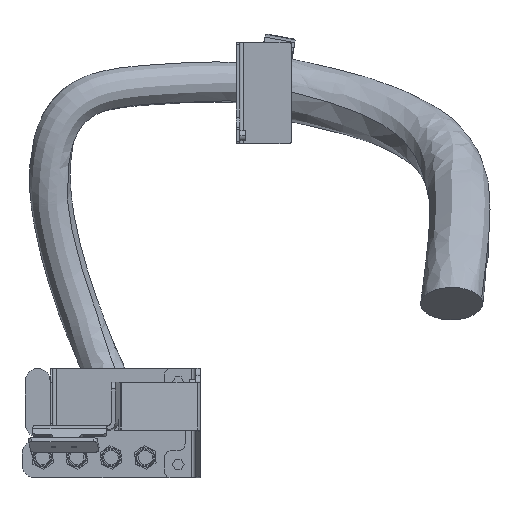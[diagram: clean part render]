
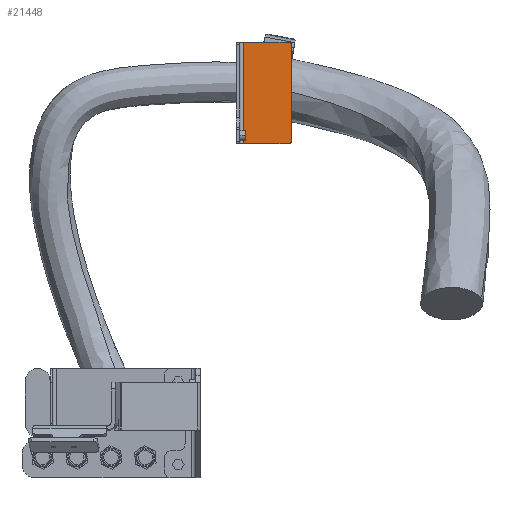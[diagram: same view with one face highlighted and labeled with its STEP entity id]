
A CAD part, left-side view. The second image highlights one B-rep face of the part: STEP entity #21448.
In plain terms, the highlighted planar face has unit normal (-1, 0, 0).
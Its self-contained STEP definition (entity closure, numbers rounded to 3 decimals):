
#708 = CARTESIAN_POINT ( 'NONE',  ( 515., -127., 2004. ) ) ;
#1198 = AXIS2_PLACEMENT_3D ( 'NONE', #8930, #24842, #6983 ) ;
#1889 = DIRECTION ( 'NONE',  ( 0., -1., 0. ) ) ;
#2055 = CARTESIAN_POINT ( 'NONE',  ( 515., -202., 2004. ) ) ;
#2662 = ORIENTED_EDGE ( 'NONE', *, *, #15573, .T. ) ;
#2813 = VECTOR ( 'NONE', #1889, 1000. ) ;
#2840 = CARTESIAN_POINT ( 'NONE',  ( 515., -127., 2004. ) ) ;
#2876 = EDGE_CURVE ( 'NONE', #12617, #16021, #13409, .T. ) ;
#3079 = FACE_OUTER_BOUND ( 'NONE', #5460, .T. ) ;
#3271 = CARTESIAN_POINT ( 'NONE',  ( 515., -202., 2001. ) ) ;
#3597 = CARTESIAN_POINT ( 'NONE',  ( 515., -127., 1856. ) ) ;
#4003 = EDGE_CURVE ( 'NONE', #24492, #12617, #19876, .T. ) ;
#4403 = CARTESIAN_POINT ( 'NONE',  ( 515., -132., 2004. ) ) ;
#4695 = CARTESIAN_POINT ( 'NONE',  ( 515., -199., 2004. ) ) ;
#4953 = DIRECTION ( 'NONE',  ( -1., 0., 0. ) ) ;
#5460 = EDGE_LOOP ( 'NONE', ( #15239, #16439, #23934, #20382, #2662, #24780 ) ) ;
#5525 = LINE ( 'NONE', #3597, #2813 ) ;
#6585 = DIRECTION ( 'NONE',  ( 1., 0., 0. ) ) ;
#6909 = CARTESIAN_POINT ( 'NONE',  ( 515., -199., 2001. ) ) ;
#6983 = DIRECTION ( 'NONE',  ( 0., 1., 0. ) ) ;
#7877 = CARTESIAN_POINT ( 'NONE',  ( 515., -199., 1856. ) ) ;
#8013 = VECTOR ( 'NONE', #15482, 1000. ) ;
#8386 = AXIS2_PLACEMENT_3D ( 'NONE', #708, #6585, #12605 ) ;
#8476 = VERTEX_POINT ( 'NONE', #4403 ) ;
#8862 = DIRECTION ( 'NONE',  ( 0., 1., 0. ) ) ;
#8930 = CARTESIAN_POINT ( 'NONE',  ( 515., -199., 1859. ) ) ;
#9103 = CIRCLE ( 'NONE', #1198, 3. ) ;
#12605 = DIRECTION ( 'NONE',  ( 0., 1., 0. ) ) ;
#12617 = VERTEX_POINT ( 'NONE', #3271 ) ;
#13409 = CIRCLE ( 'NONE', #18955, 3. ) ;
#13980 = VECTOR ( 'NONE', #21967, 1000. ) ;
#14727 = VERTEX_POINT ( 'NONE', #7877 ) ;
#15239 = ORIENTED_EDGE ( 'NONE', *, *, #4003, .T. ) ;
#15482 = DIRECTION ( 'NONE',  ( 0., 0., 1. ) ) ;
#15573 = EDGE_CURVE ( 'NONE', #23222, #14727, #5525, .T. ) ;
#15871 = CARTESIAN_POINT ( 'NONE',  ( 515., -132., 1856. ) ) ;
#16021 = VERTEX_POINT ( 'NONE', #4695 ) ;
#16439 = ORIENTED_EDGE ( 'NONE', *, *, #2876, .T. ) ;
#17624 = EDGE_CURVE ( 'NONE', #14727, #24492, #9103, .T. ) ;
#18955 = AXIS2_PLACEMENT_3D ( 'NONE', #6909, #4953, #8862 ) ;
#19326 = CARTESIAN_POINT ( 'NONE',  ( 515., -202., 1859. ) ) ;
#19371 = CARTESIAN_POINT ( 'NONE',  ( 515., -132., 1856. ) ) ;
#19876 = LINE ( 'NONE', #2055, #13980 ) ;
#20382 = ORIENTED_EDGE ( 'NONE', *, *, #22128, .F. ) ;
#20653 = LINE ( 'NONE', #2840, #22655 ) ;
#20788 = DIRECTION ( 'NONE',  ( 0., 1., 0. ) ) ;
#21448 = ADVANCED_FACE ( 'NONE', ( #3079 ), #24443, .F. ) ;
#21967 = DIRECTION ( 'NONE',  ( 0., 0., 1. ) ) ;
#22128 = EDGE_CURVE ( 'NONE', #23222, #8476, #25609, .T. ) ;
#22605 = EDGE_CURVE ( 'NONE', #16021, #8476, #20653, .T. ) ;
#22655 = VECTOR ( 'NONE', #20788, 1000. ) ;
#23222 = VERTEX_POINT ( 'NONE', #15871 ) ;
#23934 = ORIENTED_EDGE ( 'NONE', *, *, #22605, .T. ) ;
#24443 = PLANE ( 'NONE',  #8386 ) ;
#24492 = VERTEX_POINT ( 'NONE', #19326 ) ;
#24780 = ORIENTED_EDGE ( 'NONE', *, *, #17624, .T. ) ;
#24842 = DIRECTION ( 'NONE',  ( -1., 0., 0. ) ) ;
#25609 = LINE ( 'NONE', #19371, #8013 ) ;
